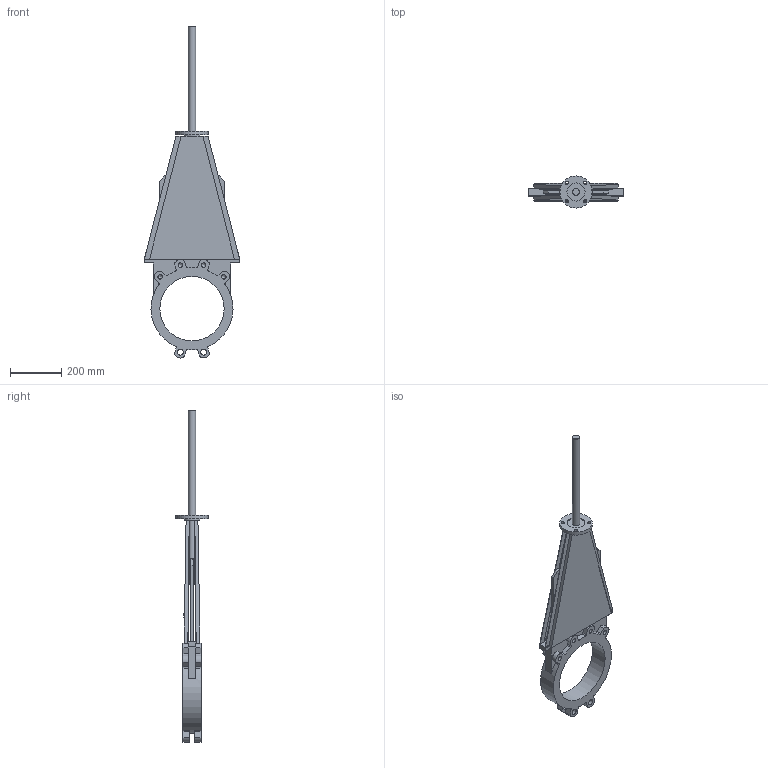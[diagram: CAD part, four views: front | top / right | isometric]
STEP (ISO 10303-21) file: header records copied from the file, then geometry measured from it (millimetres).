
FILE_DESCRIPTION(('STEP AP203'), '1');
FILE_NAME('K21GVA_DN250', '', ('UNSPECIFIED'), ('UNSPECIFIED'), 'ASCON STEP Converter 1.6', 'ASCON Math Kernel', '');
FILE_SCHEMA(('CONFIG_CONTROL_DESIGN'));
Length unit declared in the file: millimetre
Bounding box: 370 x 125 x 1289.55 mm (x, y, z)
Volume: 4950127.5 mm3; surface area: 1062280.5 mm2
Topology: 1 solids, 1 shells, 189 faces, 532 edges, 345 vertices
Faces by surface type: plane 108, cylinder 72, cone 9
Full cylindrical faces by diameter (mm): 12 x4, 17.294 x8, 23 x4, 28 x2, 60 x1, 70 x1, 125 x1, 250 x1
Entity records: 7480 total; most frequent: DIRECTION 1042, CARTESIAN_POINT 1020, ORIENTED_EDGE 986, EDGE_CURVE 493, AXIS2_PLACEMENT_3D 359, VERTEX_POINT 337, LINE 324, VECTOR 324
